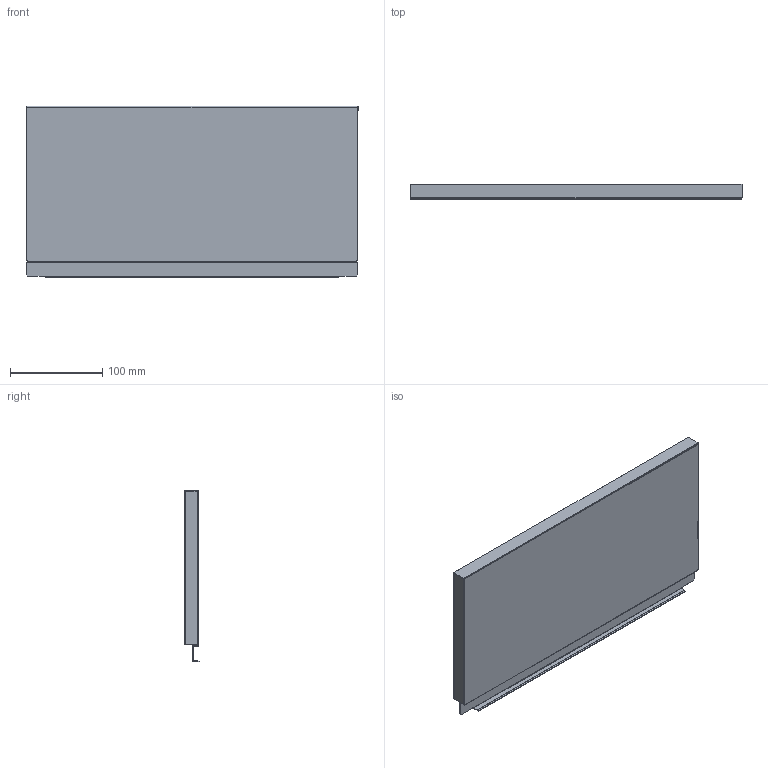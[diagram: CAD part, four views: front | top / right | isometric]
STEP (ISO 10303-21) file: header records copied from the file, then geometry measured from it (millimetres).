
FILE_DESCRIPTION (( 'STEP AP214' ), '1' );
FILE_NAME ('_STRW_H186_KAB_450.step', '2010-08-24T14:40:24', ( 'grass' ), ( '' ), 'SwSTEP 2.0', 'SolidWorks 2009', '' );
FILE_SCHEMA (( 'AUTOMOTIVE_DESIGN' ));
Length unit declared in the file: millimetre
Products named in the file (1): _STRW_H186_KAB_450
Bounding box: 360 x 17 x 186.14 mm (x, y, z)
Volume: 66489.4 mm3; surface area: 167219 mm2
Topology: 1 solids, 1 shells, 76 faces, 214 edges, 140 vertices
Faces by surface type: plane 54, cylinder 22
Entity records: 2472 total; most frequent: CARTESIAN_POINT 431, ORIENTED_EDGE 428, DIRECTION 412, EDGE_CURVE 214, LINE 170, VECTOR 170, VERTEX_POINT 140, AXIS2_PLACEMENT_3D 121
